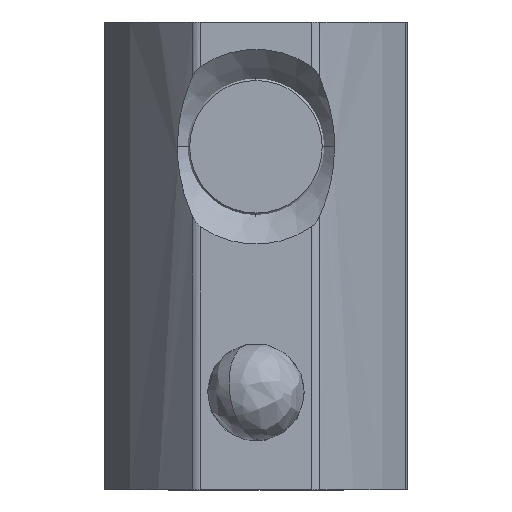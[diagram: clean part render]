
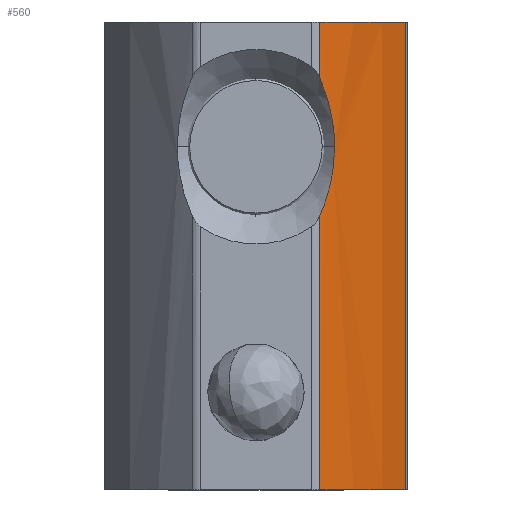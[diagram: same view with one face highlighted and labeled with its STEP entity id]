
A CAD part, top view. The second image highlights one B-rep face of the part: STEP entity #560.
In plain terms, the highlighted cylindrical face has radius 10.7 mm (diameter 21.4 mm), a partial arc.
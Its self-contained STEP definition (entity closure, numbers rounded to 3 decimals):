
#1 = CARTESIAN_POINT ( 'NONE',  ( -0.858, -0.011, 15.258 ) ) ;
#11 = DIRECTION ( 'NONE',  ( 0., -1., 0. ) ) ;
#164 = DIRECTION ( 'NONE',  ( 0., 1., 0. ) ) ;
#196 = CARTESIAN_POINT ( 'NONE',  ( -1.2, 2.383, 15.613 ) ) ;
#203 = CARTESIAN_POINT ( 'NONE',  ( 1.01, -8.186, 12.424 ) ) ;
#397 = VERTEX_POINT ( 'NONE', #1444 ) ;
#455 = VERTEX_POINT ( 'NONE', #2128 ) ;
#513 = VERTEX_POINT ( 'NONE', #3129 ) ;
#532 = CARTESIAN_POINT ( 'NONE',  ( -0.822, 0.926, 15.218 ) ) ;
#560 = ADVANCED_FACE ( 'NONE', ( #2382 ), #2434, .T. ) ;
#576 = VECTOR ( 'NONE', #164, 1000. ) ;
#617 = CARTESIAN_POINT ( 'NONE',  ( -1.2, 3.814, 15.613 ) ) ;
#630 = LINE ( 'NONE', #203, #576 ) ;
#781 = ORIENTED_EDGE ( 'NONE', *, *, #899, .T. ) ;
#817 = DIRECTION ( 'NONE',  ( 0., -1., 0. ) ) ;
#875 = ORIENTED_EDGE ( 'NONE', *, *, #923, .T. ) ;
#899 = EDGE_CURVE ( 'NONE', #513, #455, #630, .T. ) ;
#923 = EDGE_CURVE ( 'NONE', #1123, #2164, #2319, .T. ) ;
#1123 = VERTEX_POINT ( 'NONE', #1576 ) ;
#1137 = CARTESIAN_POINT ( 'NONE',  ( -0.858, 1.243, 15.258 ) ) ;
#1152 = ORIENTED_EDGE ( 'NONE', *, *, #1283, .T. ) ;
#1225 = VERTEX_POINT ( 'NONE', #196 ) ;
#1259 = EDGE_CURVE ( 'NONE', #1225, #1123, #2589, .T. ) ;
#1274 = EDGE_CURVE ( 'NONE', #2164, #397, #2093, .T. ) ;
#1283 = EDGE_CURVE ( 'NONE', #397, #513, #2028, .T. ) ;
#1299 = EDGE_CURVE ( 'NONE', #455, #3181, #1994, .T. ) ;
#1304 = EDGE_CURVE ( 'NONE', #3181, #1225, #1509, .T. ) ;
#1327 = CARTESIAN_POINT ( 'NONE',  ( -0.822, 0.614, 15.218 ) ) ;
#1351 = CARTESIAN_POINT ( 'NONE',  ( -0.822, 0.614, 15.218 ) ) ;
#1444 = CARTESIAN_POINT ( 'NONE',  ( -1.2, -8.186, 15.613 ) ) ;
#1509 = LINE ( 'NONE', #3146, #1958 ) ;
#1576 = CARTESIAN_POINT ( 'NONE',  ( -0.822, 0.614, 15.218 ) ) ;
#1588 = CARTESIAN_POINT ( 'NONE',  ( -0.988, -0.603, 15.397 ) ) ;
#1783 = AXIS2_PLACEMENT_3D ( 'NONE', #3165, #11, #1968 ) ;
#1804 = AXIS2_PLACEMENT_3D ( 'NONE', #1960, #1977, #2037 ) ;
#1821 = CARTESIAN_POINT ( 'NONE',  ( -0.822, 0.304, 15.218 ) ) ;
#1850 = CARTESIAN_POINT ( 'NONE',  ( -1.082, -0.888, 15.497 ) ) ;
#1958 = VECTOR ( 'NONE', #817, 1000. ) ;
#1960 = CARTESIAN_POINT ( 'NONE',  ( -8.744, -8.186, 8.026 ) ) ;
#1968 = DIRECTION ( 'NONE',  ( 1., 0., 0. ) ) ;
#1977 = DIRECTION ( 'NONE',  ( 0., 1., 0. ) ) ;
#1994 = CIRCLE ( 'NONE', #1783, 10.7 ) ;
#2028 = CIRCLE ( 'NONE', #1804, 10.7 ) ;
#2037 = DIRECTION ( 'NONE',  ( 1., 0., 0. ) ) ;
#2053 = VECTOR ( 'NONE', #2942, 1000. ) ;
#2093 = LINE ( 'NONE', #2667, #2053 ) ;
#2128 = CARTESIAN_POINT ( 'NONE',  ( 1.01, 3.814, 12.424 ) ) ;
#2151 = CARTESIAN_POINT ( 'NONE',  ( -1.2, 2.383, 15.613 ) ) ;
#2164 = VERTEX_POINT ( 'NONE', #2567 ) ;
#2273 = CARTESIAN_POINT ( 'NONE',  ( -1.2, -1.155, 15.613 ) ) ;
#2319 = B_SPLINE_CURVE_WITH_KNOTS ( 'NONE', 3,
 ( #1351, #1821, #1, #1588, #1850, #2273 ),
 .UNSPECIFIED., .F., .F.,
 ( 4, 2, 4 ),
 ( 0.002, 0.003, 0.004 ),
 .UNSPECIFIED. ) ;
#2382 = FACE_OUTER_BOUND ( 'NONE', #2962, .T. ) ;
#2434 = CYLINDRICAL_SURFACE ( 'NONE', #2601, 10.7 ) ;
#2438 = ORIENTED_EDGE ( 'NONE', *, *, #1259, .T. ) ;
#2476 = ORIENTED_EDGE ( 'NONE', *, *, #1304, .T. ) ;
#2506 = CARTESIAN_POINT ( 'NONE',  ( -1.082, 2.115, 15.496 ) ) ;
#2567 = CARTESIAN_POINT ( 'NONE',  ( -1.2, -1.155, 15.613 ) ) ;
#2589 = B_SPLINE_CURVE_WITH_KNOTS ( 'NONE', 3,
 ( #2151, #2506, #3059, #1137, #532, #1327 ),
 .UNSPECIFIED., .F., .F.,
 ( 4, 2, 4 ),
 ( 0., 0.001, 0.002 ),
 .UNSPECIFIED. ) ;
#2601 = AXIS2_PLACEMENT_3D ( 'NONE', #2968, #2880, #3058 ) ;
#2609 = ORIENTED_EDGE ( 'NONE', *, *, #1299, .T. ) ;
#2667 = CARTESIAN_POINT ( 'NONE',  ( -1.2, -8.186, 15.613 ) ) ;
#2765 = ORIENTED_EDGE ( 'NONE', *, *, #1274, .T. ) ;
#2880 = DIRECTION ( 'NONE',  ( 0., 1., 0. ) ) ;
#2942 = DIRECTION ( 'NONE',  ( 0., -1., 0. ) ) ;
#2962 = EDGE_LOOP ( 'NONE', ( #2609, #2476, #2438, #875, #2765, #1152, #781 ) ) ;
#2968 = CARTESIAN_POINT ( 'NONE',  ( -8.744, -8.186, 8.026 ) ) ;
#3058 = DIRECTION ( 'NONE',  ( 1., 0., 0. ) ) ;
#3059 = CARTESIAN_POINT ( 'NONE',  ( -0.989, 1.835, 15.398 ) ) ;
#3129 = CARTESIAN_POINT ( 'NONE',  ( 1.01, -8.186, 12.424 ) ) ;
#3146 = CARTESIAN_POINT ( 'NONE',  ( -1.2, -8.186, 15.613 ) ) ;
#3165 = CARTESIAN_POINT ( 'NONE',  ( -8.744, 3.814, 8.026 ) ) ;
#3181 = VERTEX_POINT ( 'NONE', #617 ) ;
